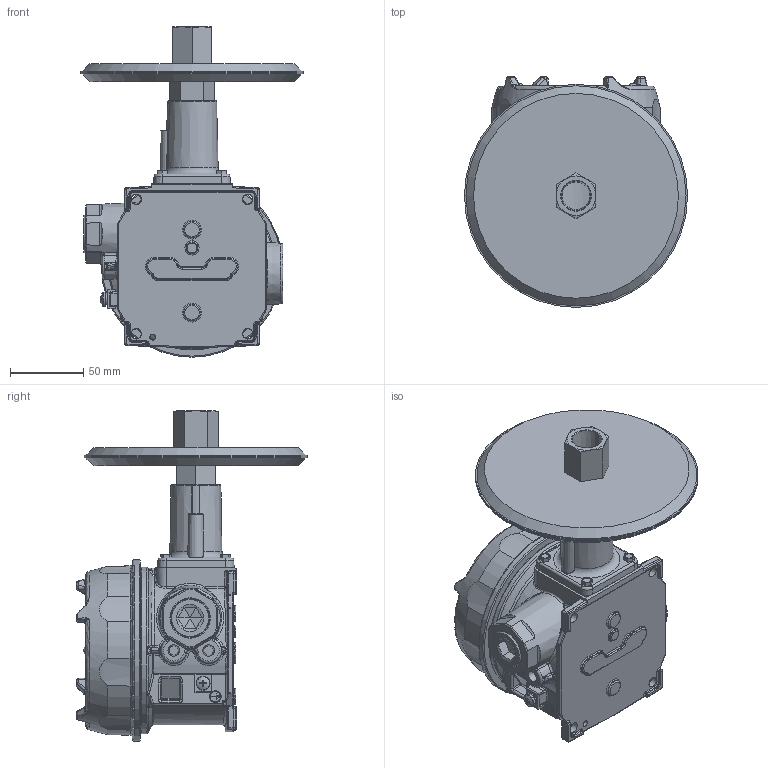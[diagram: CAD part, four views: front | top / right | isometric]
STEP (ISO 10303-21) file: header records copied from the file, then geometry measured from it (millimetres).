
FILE_DESCRIPTION (( 'STEP AP214' ), '1' );
FILE_NAME ('J120-530_535_V3.STEP', '2025-03-13T18:50:44', ( '' ), ( '' ), 'SwSTEP 2.0', 'SolidWorks 2023', '' );
FILE_SCHEMA (( 'AUTOMOTIVE_DESIGN' ));
Length unit declared in the file: inch
Products named in the file (1): J120-530_535_V3
Bounding box: 152.4 x 157.78 x 225.78 mm (x, y, z)
Surface area: 131444.3 mm2 (no closed solid volume)
Topology: 0 solids, 25 shells, 963 faces, 2497 edges, 1481 vertices
Faces by surface type: bspline 233, plane 220, cylinder 199, torus 152, cone 129, sphere 30
Full cylindrical faces by diameter (mm): 1.575 x1, 3.22 x1, 5.556 x4, 7.366 x1, 7.874 x1, 9.5 x1, 23.812 x1, 87.312 x1, 114.046 x1, 123.952 x1, 152.4 x3
Entity records: 39519 total; most frequent: CARTESIAN_POINT 18976, ORIENTED_EDGE 4304, DIRECTION 3957, EDGE_CURVE 2361, AXIS2_PLACEMENT_3D 1657, VERTEX_POINT 1455, EDGE_LOOP 1090, FACE_OUTER_BOUND 1002
